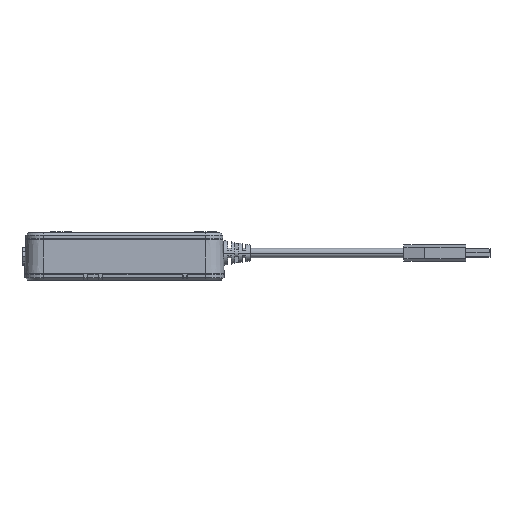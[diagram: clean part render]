
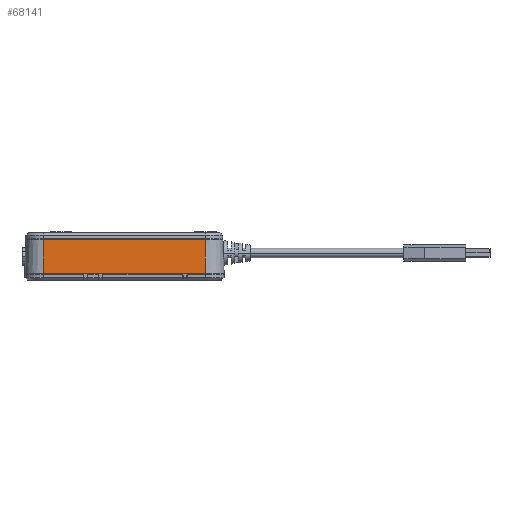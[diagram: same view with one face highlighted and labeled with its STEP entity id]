
A CAD part, front view. The second image highlights one B-rep face of the part: STEP entity #68141.
In plain terms, the highlighted planar face has unit normal (0, -0.999, 0.035).
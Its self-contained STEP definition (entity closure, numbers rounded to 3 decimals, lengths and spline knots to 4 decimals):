
#10838=DIRECTION('',(1.,0.,0.));
#10839=VECTOR('',#10838,3.25);
#10840=CARTESIAN_POINT('',(-1.625,-1.6489,
0.045));
#10841=LINE('',#10840,#10839);
#10842=DIRECTION('',(0.,-0.035,-0.999));
#10843=VECTOR('',#10842,0.6708);
#10844=CARTESIAN_POINT('',(-1.625,-1.6255,
0.7153));
#10845=LINE('',#10844,#10843);
#10846=DIRECTION('',(-1.,0.,0.));
#10847=VECTOR('',#10846,3.25);
#10848=CARTESIAN_POINT('',(1.625,-1.6255,
0.7153));
#10849=LINE('',#10848,#10847);
#10850=DIRECTION('',(0.,-0.035,-0.999));
#10851=VECTOR('',#10850,0.6708);
#10852=CARTESIAN_POINT('',(1.625,-1.6255,
0.7153));
#10853=LINE('',#10852,#10851);
#46388=CARTESIAN_POINT('',(1.625,-1.6489,0.045));
#46390=VERTEX_POINT('',#46388);
#46416=CARTESIAN_POINT('',(-1.625,-1.6489,0.045));
#46417=VERTEX_POINT('',#46416);
#46424=CARTESIAN_POINT('',(-1.625,-1.6255,
0.7153));
#46425=VERTEX_POINT('',#46424);
#46426=CARTESIAN_POINT('',(1.625,-1.6255,
0.7153));
#46427=VERTEX_POINT('',#46426);
#68128=CARTESIAN_POINT('',(-3.0375,-1.625,0.73));
#68129=DIRECTION('',(0.,-0.999,0.035));
#68130=DIRECTION('',(-1.,0.,0.));
#68131=AXIS2_PLACEMENT_3D('',#68128,#68129,#68130);
#68132=PLANE('',#68131);
#68134=ORIENTED_EDGE('',*,*,#68133,.F.);
#68135=ORIENTED_EDGE('',*,*,#67404,.F.);
#68137=ORIENTED_EDGE('',*,*,#68136,.F.);
#68138=ORIENTED_EDGE('',*,*,#68119,.T.);
#68139=EDGE_LOOP('',(#68134,#68135,#68137,#68138));
#68140=FACE_OUTER_BOUND('',#68139,.F.);
#68141=ADVANCED_FACE('',(#68140),#68132,.T.);
#67404=EDGE_CURVE('',#46425,#46417,#10845,.T.);
#68119=EDGE_CURVE('',#46427,#46390,#10853,.T.);
#68133=EDGE_CURVE('',#46417,#46390,#10841,.T.);
#68136=EDGE_CURVE('',#46427,#46425,#10849,.T.);
